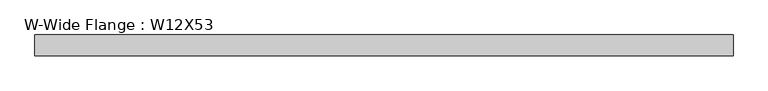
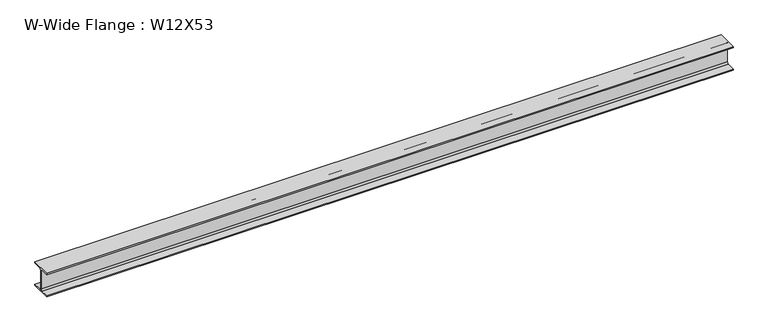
"""IFC4 building model written with IfcOpenShell, lengths in millimetres: beam geometry, W-Wide Flange : W12X53."""

from ifc_helpers import new_model, si_unit, point, frame, frame_2d, origin, place, context, project, spatial, polyline, circle_curve, trimmed, segment, composite_curve, outline, extrude, source, transform, mapped, element, save


def w_wide_flange_w12x53_96ffc1ec(model_context):
    return source(origin(), model_context, "Body", "SweptSolid", [
        extrude(outline(composite_curve([segment(polyline([(127.0, -139.065), (127.0, -153.67), (-127.0, -153.67), (-127.0, -139.065), (-24.7015, -139.065)]), True, "CONTINUOUS"), segment(trimmed(circle_curve(frame_2d((-24.7015, -118.745)), 20.32), [point((-24.7015, -139.065))], [point((-4.3815, -118.745))], True, "CARTESIAN"), True, "CONTINUOUS"), segment(polyline([(-4.3815, -118.745), (-4.3815, 118.745)]), True, "CONTINUOUS"), segment(trimmed(circle_curve(frame_2d((-24.7015, 118.745)), 20.32), [point((-4.3815, 118.745))], [point((-24.7015, 139.065))], True, "CARTESIAN"), True, "CONTINUOUS"), segment(polyline([(-24.7015, 139.065), (-127.0, 139.065), (-127.0, 153.67), (127.0, 153.67), (127.0, 139.065), (24.7015, 139.065)]), True, "CONTINUOUS"), segment(trimmed(circle_curve(frame_2d((24.7015, 118.745)), 20.32), [point((24.7015, 139.065))], [point((4.3815, 118.745))], True, "CARTESIAN"), True, "CONTINUOUS"), segment(polyline([(4.3815, 118.745), (4.3815, -118.745)]), True, "CONTINUOUS"), segment(trimmed(circle_curve(frame_2d((24.7015, -118.745)), 20.32), [point((4.3815, -118.745))], [point((24.7015, -139.065))], True, "CARTESIAN"), True, "CONTINUOUS"), segment(polyline([(24.7015, -139.065), (127.0, -139.065)]), True, "CONTINUOUS")], self_intersect=False)), frame((-4221.9066406, 0.0, 0.0), z_axis=(1.0, 0.0, 0.0), x_axis=(0.0, 1.0, 0.0)), (0.0, 0.0, 1.0), 8493.8195313),
    ])


if __name__ == "__main__":
    model = new_model("IFC4")
    model_context = context("Model", 3, world=origin())
    ifc_project = project(units=[si_unit("LENGTHUNIT", "METRE", prefix="MILLI")], contexts=[model_context])
    site = spatial("IfcSite", under=ifc_project)
    building = spatial("IfcBuilding", under=site)
    placement = place(None, origin())
    w_wide_flange_w12x53_shape = w_wide_flange_w12x53_96ffc1ec(model_context)
    element("IfcBeam", 1, ObjectType="W-Wide Flange : W12X53", at=placement, inside=building, context=model_context, shape_type="MappedRepresentation", body=[
        mapped(w_wide_flange_w12x53_shape, transform((0.0, 0.0, 0.0), x_axis=(1.0, 0.0, 0.0), y_axis=(0.0, 1.0, 0.0), z_axis=(0.0, 0.0, 1.0))),
    ])
    save(model, "model.ifc")
